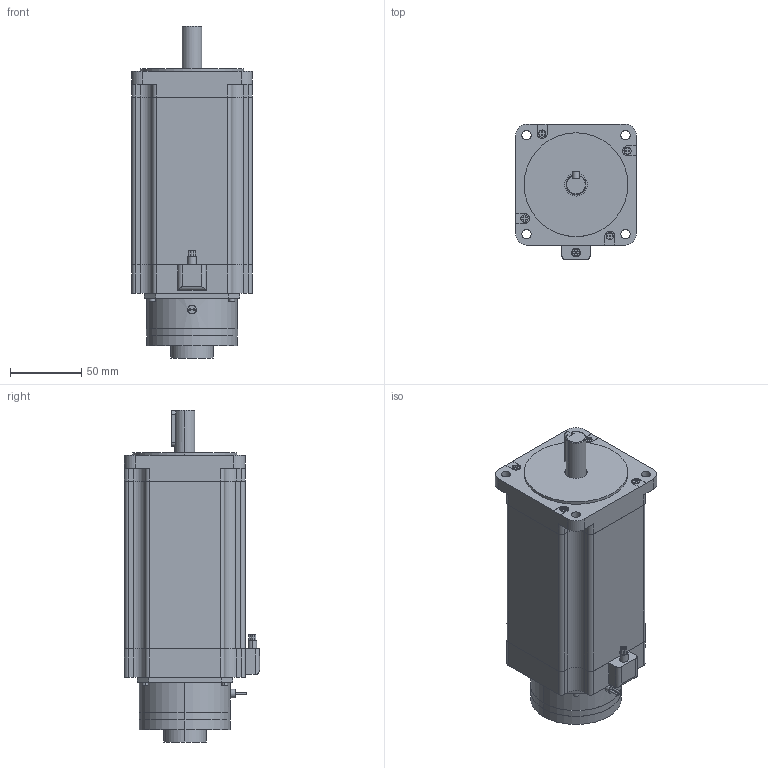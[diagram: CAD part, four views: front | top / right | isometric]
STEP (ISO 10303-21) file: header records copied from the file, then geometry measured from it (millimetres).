
FILE_DESCRIPTION (( 'STEP AP203' ), '1' );
FILE_NAME ('UB86D24-D60-4156.STEP', '2019-11-16T02:54:54', ( 'China' ), ( 'Home' ), 'SwSTEP 2.0', 'SolidWorks 2016', '' );
FILE_SCHEMA (( 'CONFIG_CONTROL_DESIGN' ));
Length unit declared in the file: millimetre
Products named in the file (1): UB86D24-D60-4156
Bounding box: 85 x 95 x 233.5 mm (x, y, z)
Volume: 1149262.7 mm3; surface area: 76606.2 mm2
Topology: 1 solids, 2 shells, 290 faces, 750 edges, 498 vertices
Faces by surface type: plane 180, cylinder 107, torus 3
Entity records: 9175 total; most frequent: CARTESIAN_POINT 1792, DIRECTION 1530, ORIENTED_EDGE 1500, EDGE_CURVE 750, LINE 530, VECTOR 530, AXIS2_PLACEMENT_3D 500, VERTEX_POINT 498
